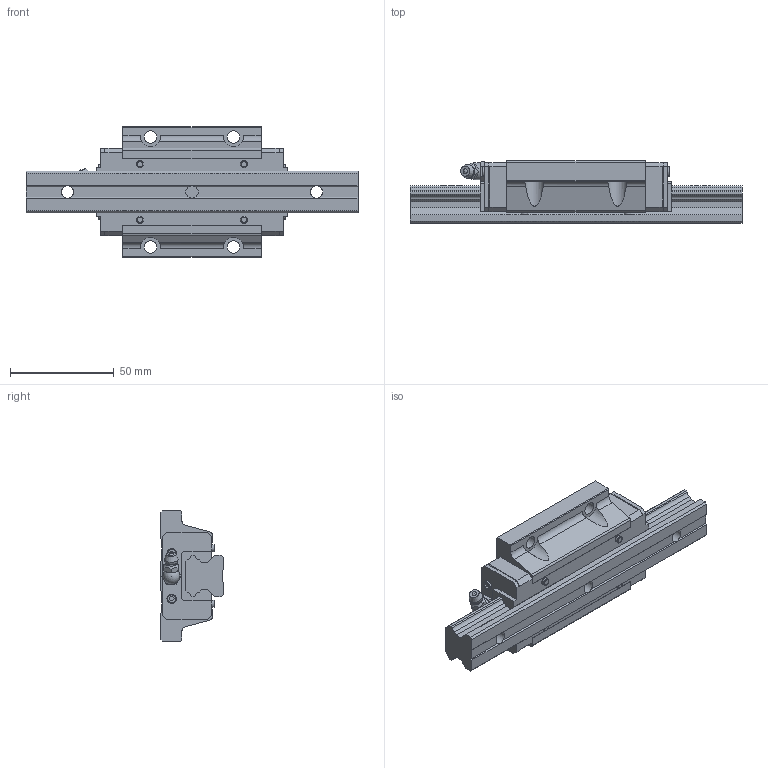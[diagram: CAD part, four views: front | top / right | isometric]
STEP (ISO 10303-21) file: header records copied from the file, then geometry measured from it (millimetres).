
FILE_DESCRIPTION(/* description */ ('STEP AP203'),/* implementation_level */ '2;1');
FILE_NAME(/* name */ 'HSR20M1LB1SS-160L_G20_0_B-M6F_34_0_0_0',/* time_stamp */ '2024-05-23T06:17:35+02:00',/* author */ ('License CC BY-ND 4.0'),/* organization */ ('CADENAS'),/* preprocessor_version */ 'ST-DEVELOPER v19.3',/* originating_system */ 'PARTsolutions',/* authorisation */ ' ');
FILE_SCHEMA (('CONFIG_CONTROL_DESIGN'));
Length unit declared in the file: millimetre
Products named in the file (4): HSR20M1LB1SS-160L_G20_0_B-M6F_34_0_0_0; HSR20M1LB116020 Rail; HSR20M1LBSSB-M6F Slider; hsr_ftht_B-M6F_grease_nipple_joint
Assembly tree (3 placements, depth 2):
  HSR20M1LB1SS-160L_G20_0_B-M6F_34_0_0_0
    HSR20M1LB116020 Rail
    HSR20M1LBSSB-M6F Slider
    hsr_ftht_B-M6F_grease_nipple_joint
Bounding box: 160 x 30 x 63 mm (x, y, z)
Volume: 134934.7 mm3; surface area: 34947.8 mm2
Topology: 3 solids, 3 shells, 264 faces, 703 edges, 458 vertices
Faces by surface type: plane 196, cylinder 42, cone 13, torus 10, sphere 3
Full cylindrical faces by diameter (mm): 3.43 x4, 4.5 x4, 4.917 x2, 6 x8, 8 x1, 9.5 x3
Entity records: 8035 total; most frequent: CARTESIAN_POINT 1497, ORIENTED_EDGE 1306, DIRECTION 1286, EDGE_CURVE 653, LINE 492, VECTOR 492, VERTEX_POINT 452, AXIS2_PLACEMENT_3D 397
